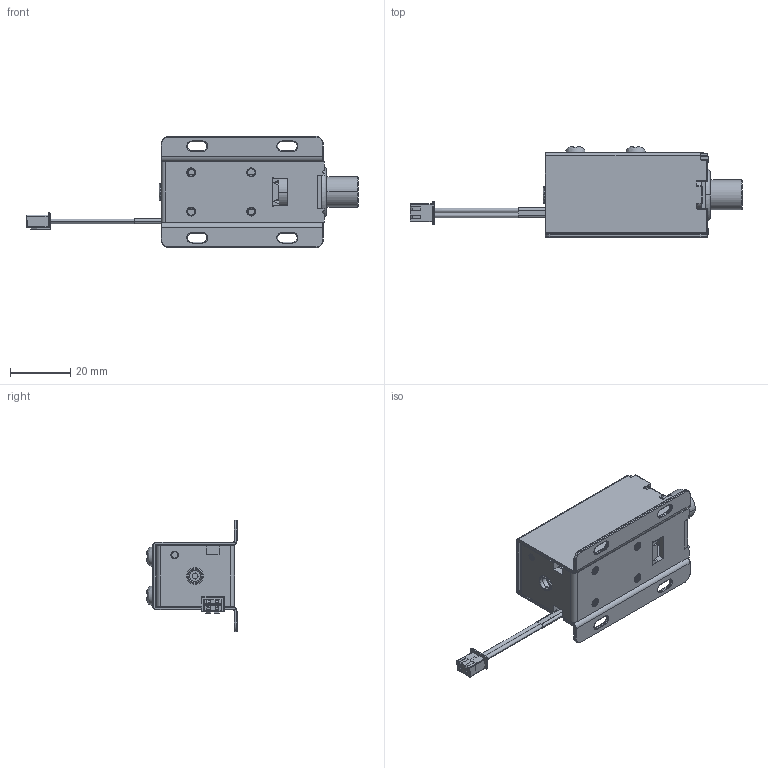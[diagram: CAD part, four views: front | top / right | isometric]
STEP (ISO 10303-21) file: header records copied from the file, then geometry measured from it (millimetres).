
FILE_DESCRIPTION((''),'2;1');
FILE_NAME('LY-01B0001_ASM','2024-12-09T14:31:31',('PRIME'),(''),'CREO PARAMETRIC BY PTC INC, 2023073','CREO PARAMETRIC BY PTC INC, 2023073','');
FILE_SCHEMA(('CONFIG_CONTROL_DESIGN','SHAPE_APPEARANCE_LAYERS_GROUPS'));
Products named in the file (9): _LY-01B0001; _LY-01B0002; _LY-01B0003; _LY-01B0004; _LY-01B-0001; LY-01B0002; _LY-01B0005; _M35MM0001; LY-01B0001_ASM
Assembly tree (9 placements, depth 2):
  LY-01B0001_ASM
    _LY-01B0001
    _LY-01B0002
    _LY-01B0003
    _LY-01B0004
    _LY-01B-0001
    LY-01B0002
    _LY-01B0005
    _M35MM0001  x2
Bounding box: 110.5 x 30 x 37 mm (x, y, z)
Volume: 16340.4 mm3; surface area: 24574.9 mm2
Topology: 59 solids, 59 shells, 1913 faces, 5055 edges, 3273 vertices
Faces by surface type: plane 1211, cylinder 333, extrusion 131, bspline 96, torus 90, sphere 30, cone 20, revolution 2
Entity records: 79297 total; most frequent: CARTESIAN_POINT 20736, ORIENTED_EDGE 9802, DIRECTION 8536, EDGE_CURVE 4901, VECTOR 3770, LINE 3639, VERTEX_POINT 3177, AXIS2_PLACEMENT_3D 2382
